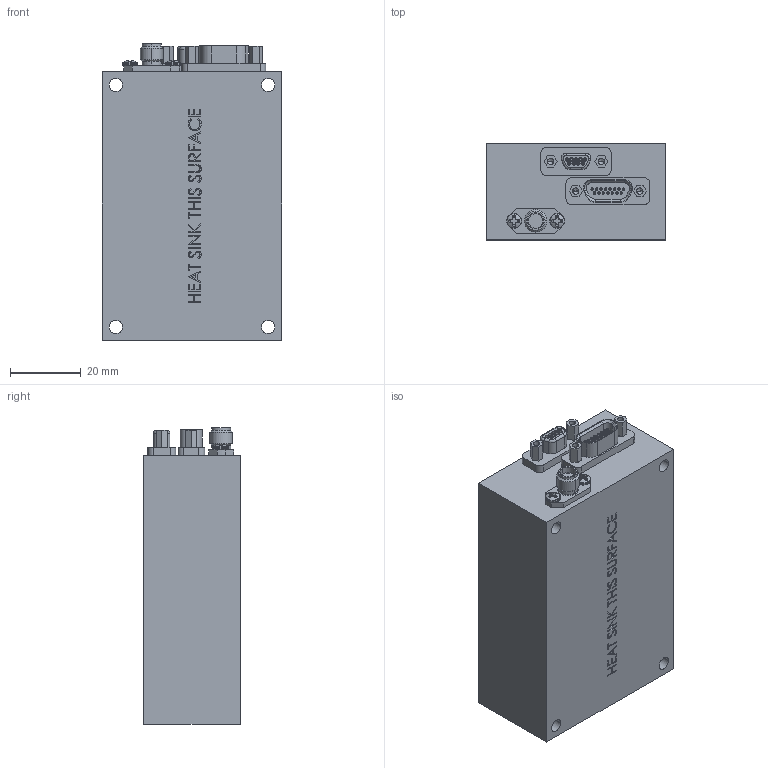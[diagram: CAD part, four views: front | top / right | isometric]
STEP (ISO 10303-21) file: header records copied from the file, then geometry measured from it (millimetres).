
FILE_DESCRIPTION (( 'STEP AP214' ), '1' );
FILE_NAME ('06BJ.STEP', '2026-09-02T17:19:36', ( '' ), ( '' ), 'SwSTEP 2.0', 'SolidWorks 2026', '' );
FILE_SCHEMA (( 'AUTOMOTIVE_DESIGN' ));
Length unit declared in the file: inch
Products named in the file (1): 06BJ
Bounding box: 50.8 x 27.3 x 84.14 mm (x, y, z)
Volume: 106653.7 mm3; surface area: 20172.9 mm2
Topology: 10 solids, 10 shells, 895 faces, 2159 edges, 1400 vertices
Faces by surface type: plane 412, cylinder 287, bspline 106, cone 53, torus 33, sphere 4
Entity records: 38772 total; most frequent: CARTESIAN_POINT 10681, ORIENTED_EDGE 4286, DIRECTION 4128, EDGE_CURVE 2143, AXIS2_PLACEMENT_3D 1471, VERTEX_POINT 1400, VECTOR 1186, LINE 1186
